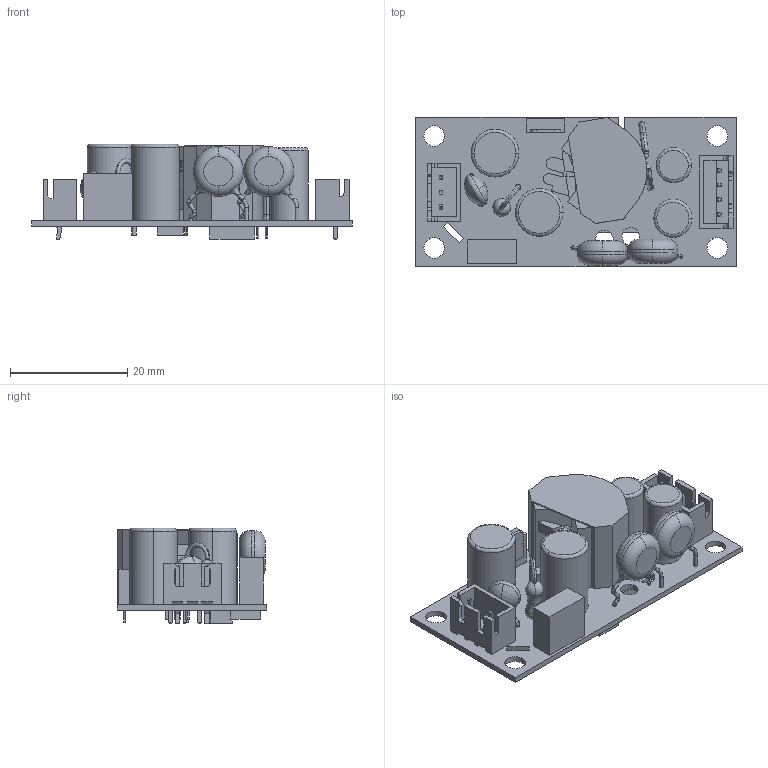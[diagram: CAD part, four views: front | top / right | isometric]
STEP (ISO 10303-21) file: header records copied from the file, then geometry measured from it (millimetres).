
FILE_DESCRIPTION (( 'STEP AP203' ), '1' );
FILE_NAME ('CFM12SXXX-T ¦¨«~¹Ï (M-B111-F)(V1.0)-1130703.STEP', '2024-08-20T00:29:52', ( 'cincon' ), ( '' ), 'SwSTEP 2.0', 'SolidWorks 2020', '' );
FILE_SCHEMA (( 'CONFIG_CONTROL_DESIGN' ));
Length unit declared in the file: millimetre
Products named in the file (8): CFM12陶瓷電容示意圖 2018,10,29; CFM12S-T 4PIN插座示意圖; CFM12SXXX-T 成品圖 (M-B111-F)(V1.0)-1130703; CFM12S-T 3PIN插座示意圖; 零件1^CFM12SXXX-T 成品圖 (M-B111-F)(V1.0)-1130703; CFM12S變壓器示意圖-1130718; CFM12 電晶體示意圖 2018,10,29; CFM12SXXX-T PCB(V1.5)-1110712
Assembly tree (6 placements, depth 2):
  CFM12SXXX-T 成品圖 (M-B111-F)(V1.0)-1130703
    CFM12SXXX-T PCB(V1.5)-1110712
    CFM12 電晶體示意圖 2018,10,29
    CFM12陶瓷電容示意圖 2018,10,29
    CFM12S-T 3PIN插座示意圖
    CFM12S變壓器示意圖-1130718
    CFM12S-T 4PIN插座示意圖
  零件1^CFM12SXXX-T 成品圖 (M-B111-F)(V1.0)-1130703
Bounding box: 54.61 x 25.4 x 16.31 mm (x, y, z)
Volume: 7191.3 mm3; surface area: 7676.6 mm2
Topology: 13 solids, 13 shells, 585 faces, 1502 edges, 960 vertices
Faces by surface type: plane 346, cylinder 134, torus 63, bspline 34, sphere 8
Entity records: 19759 total; most frequent: CARTESIAN_POINT 4655, DIRECTION 2977, ORIENTED_EDGE 2976, EDGE_CURVE 1488, AXIS2_PLACEMENT_3D 1016, VERTEX_POINT 954, VECTOR 945, LINE 945
